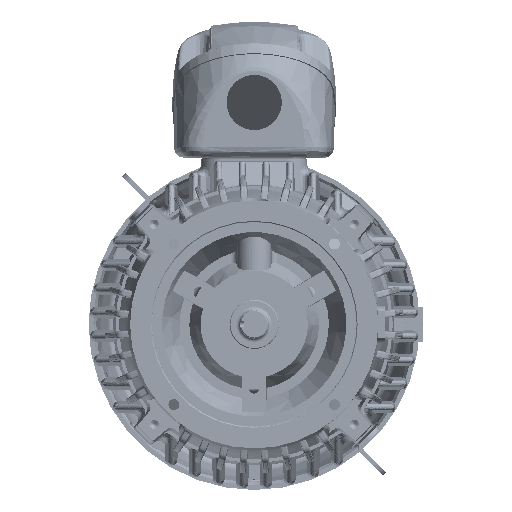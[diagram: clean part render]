
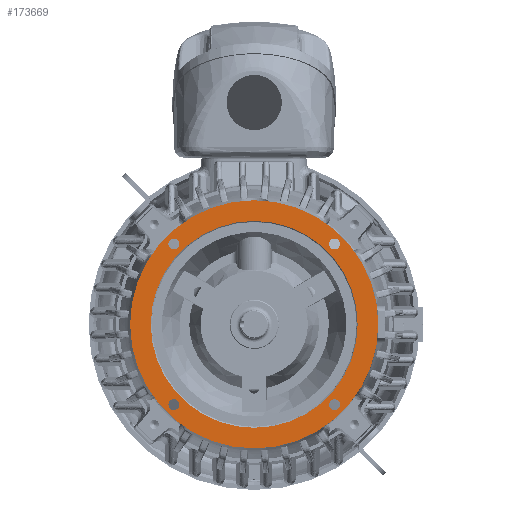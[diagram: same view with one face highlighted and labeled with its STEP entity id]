
A CAD part, front view. The second image highlights one B-rep face of the part: STEP entity #173669.
In plain terms, the highlighted planar face has unit normal (0, -1, 0) as drawn and (0, 0, -1) by its records, which use the part's own axes.
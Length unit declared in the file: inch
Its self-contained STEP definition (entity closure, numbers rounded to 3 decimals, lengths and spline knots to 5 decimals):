
#151449=CARTESIAN_POINT('',(0.,0.,-4.763));
#151450=DIRECTION('',(0.,0.,1.));
#151451=DIRECTION('',(0.,-1.,0.));
#151452=AXIS2_PLACEMENT_3D('',#151449,#151450,#151451);
#151454=CARTESIAN_POINT('',(0.,0.,-4.763));
#151455=DIRECTION('',(0.,0.,-1.));
#151456=DIRECTION('',(0.,-1.,0.));
#151457=AXIS2_PLACEMENT_3D('',#151454,#151455,#151456);
#151459=CARTESIAN_POINT('',(-3.22617,3.22617,-4.763));
#151460=DIRECTION('',(0.,0.,1.));
#151461=DIRECTION('',(1.,0.,0.));
#151462=AXIS2_PLACEMENT_3D('',#151459,#151460,#151461);
#151464=CARTESIAN_POINT('',(-3.22617,3.22617,-4.763));
#151465=DIRECTION('',(0.,0.,1.));
#151466=DIRECTION('',(-1.,0.,0.));
#151467=AXIS2_PLACEMENT_3D('',#151464,#151465,#151466);
#151469=CARTESIAN_POINT('',(-3.22617,-3.22617,-4.763));
#151470=DIRECTION('',(0.,0.,1.));
#151471=DIRECTION('',(1.,0.,0.));
#151472=AXIS2_PLACEMENT_3D('',#151469,#151470,#151471);
#151474=CARTESIAN_POINT('',(-3.22617,-3.22617,-4.763));
#151475=DIRECTION('',(0.,0.,1.));
#151476=DIRECTION('',(-1.,0.,0.));
#151477=AXIS2_PLACEMENT_3D('',#151474,#151475,#151476);
#151479=CARTESIAN_POINT('',(3.22617,-3.22617,-4.763));
#151480=DIRECTION('',(0.,0.,1.));
#151481=DIRECTION('',(1.,0.,0.));
#151482=AXIS2_PLACEMENT_3D('',#151479,#151480,#151481);
#151484=CARTESIAN_POINT('',(3.22617,-3.22617,-4.763));
#151485=DIRECTION('',(0.,0.,1.));
#151486=DIRECTION('',(-1.,0.,0.));
#151487=AXIS2_PLACEMENT_3D('',#151484,#151485,#151486);
#151489=CARTESIAN_POINT('',(3.22617,3.22617,-4.763));
#151490=DIRECTION('',(0.,0.,1.));
#151491=DIRECTION('',(1.,0.,0.));
#151492=AXIS2_PLACEMENT_3D('',#151489,#151490,#151491);
#151494=CARTESIAN_POINT('',(3.22617,3.22617,-4.763));
#151495=DIRECTION('',(0.,0.,1.));
#151496=DIRECTION('',(-1.,0.,0.));
#151497=AXIS2_PLACEMENT_3D('',#151494,#151495,#151496);
#151499=CARTESIAN_POINT('',(0.,0.,-4.763));
#151500=DIRECTION('',(0.,0.,-1.));
#151501=DIRECTION('',(0.,-1.,0.));
#151502=AXIS2_PLACEMENT_3D('',#151499,#151500,#151501);
#151504=CARTESIAN_POINT('',(0.,0.,-4.763));
#151505=DIRECTION('',(0.,0.,-1.));
#151506=DIRECTION('',(0.,1.,0.));
#151507=AXIS2_PLACEMENT_3D('',#151504,#151505,#151506);
#169290=CARTESIAN_POINT('',(0.,-4.156,-4.763));
#169291=VERTEX_POINT('',#169290);
#169298=CARTESIAN_POINT('',(0.,4.156,-4.763));
#169299=VERTEX_POINT('',#169298);
#169312=CARTESIAN_POINT('',(-3.00717,3.22617,-4.763));
#169313=CARTESIAN_POINT('',(-3.44517,3.22617,-4.763));
#169314=VERTEX_POINT('',#169312);
#169315=VERTEX_POINT('',#169313);
#169322=CARTESIAN_POINT('',(-3.00717,-3.22617,-4.763));
#169323=CARTESIAN_POINT('',(-3.44517,-3.22617,-4.763));
#169324=VERTEX_POINT('',#169322);
#169325=VERTEX_POINT('',#169323);
#169328=CARTESIAN_POINT('',(3.44517,-3.22617,-4.763));
#169329=CARTESIAN_POINT('',(3.00717,-3.22617,-4.763));
#169330=VERTEX_POINT('',#169328);
#169331=VERTEX_POINT('',#169329);
#169332=CARTESIAN_POINT('',(3.44517,3.22617,-4.763));
#169333=CARTESIAN_POINT('',(3.00717,3.22617,-4.763));
#169334=VERTEX_POINT('',#169332);
#169335=VERTEX_POINT('',#169333);
#169358=CARTESIAN_POINT('',(0.,-4.985,-4.763));
#169359=CARTESIAN_POINT('',(0.,4.985,-4.763));
#169360=VERTEX_POINT('',#169358);
#169361=VERTEX_POINT('',#169359);
#173630=CARTESIAN_POINT('',(0.,0.,-4.763));
#173631=DIRECTION('',(0.,0.,-1.));
#173632=DIRECTION('',(0.,-1.,0.));
#173633=AXIS2_PLACEMENT_3D('',#173630,#173631,#173632);
#173634=PLANE('',#173633);
#173636=ORIENTED_EDGE('',*,*,#173635,.F.);
#173638=ORIENTED_EDGE('',*,*,#173637,.F.);
#173639=EDGE_LOOP('',(#173636,#173638));
#173640=FACE_OUTER_BOUND('',#173639,.F.);
#173642=ORIENTED_EDGE('',*,*,#173641,.F.);
#173644=ORIENTED_EDGE('',*,*,#173643,.F.);
#173645=EDGE_LOOP('',(#173642,#173644));
#173646=FACE_BOUND('',#173645,.F.);
#173648=ORIENTED_EDGE('',*,*,#173647,.F.);
#173650=ORIENTED_EDGE('',*,*,#173649,.F.);
#173651=EDGE_LOOP('',(#173648,#173650));
#173652=FACE_BOUND('',#173651,.F.);
#173654=ORIENTED_EDGE('',*,*,#173653,.F.);
#173656=ORIENTED_EDGE('',*,*,#173655,.F.);
#173657=EDGE_LOOP('',(#173654,#173656));
#173658=FACE_BOUND('',#173657,.F.);
#173660=ORIENTED_EDGE('',*,*,#173659,.F.);
#173662=ORIENTED_EDGE('',*,*,#173661,.F.);
#173663=EDGE_LOOP('',(#173660,#173662));
#173664=FACE_BOUND('',#173663,.F.);
#173665=ORIENTED_EDGE('',*,*,#173623,.F.);
#173666=ORIENTED_EDGE('',*,*,#173612,.T.);
#173667=EDGE_LOOP('',(#173665,#173666));
#173668=FACE_BOUND('',#173667,.F.);
#173669=ADVANCED_FACE('',(#173640,#173646,#173652,#173658,#173664,#173668),
#173634,.T.);
#151453=CIRCLE('',#151452,4.156);
#151458=CIRCLE('',#151457,4.156);
#151463=CIRCLE('',#151462,0.219);
#151468=CIRCLE('',#151467,0.219);
#151473=CIRCLE('',#151472,0.219);
#151478=CIRCLE('',#151477,0.219);
#151483=CIRCLE('',#151482,0.219);
#151488=CIRCLE('',#151487,0.219);
#151493=CIRCLE('',#151492,0.219);
#151498=CIRCLE('',#151497,0.219);
#151503=CIRCLE('',#151502,4.985);
#151508=CIRCLE('',#151507,4.985);
#173612=EDGE_CURVE('',#169291,#169299,#151458,.T.);
#173623=EDGE_CURVE('',#169291,#169299,#151453,.T.);
#173635=EDGE_CURVE('',#169360,#169361,#151503,.T.);
#173637=EDGE_CURVE('',#169361,#169360,#151508,.T.);
#173641=EDGE_CURVE('',#169314,#169315,#151463,.T.);
#173643=EDGE_CURVE('',#169315,#169314,#151468,.T.);
#173647=EDGE_CURVE('',#169324,#169325,#151473,.T.);
#173649=EDGE_CURVE('',#169325,#169324,#151478,.T.);
#173653=EDGE_CURVE('',#169330,#169331,#151483,.T.);
#173655=EDGE_CURVE('',#169331,#169330,#151488,.T.);
#173659=EDGE_CURVE('',#169334,#169335,#151493,.T.);
#173661=EDGE_CURVE('',#169335,#169334,#151498,.T.);
